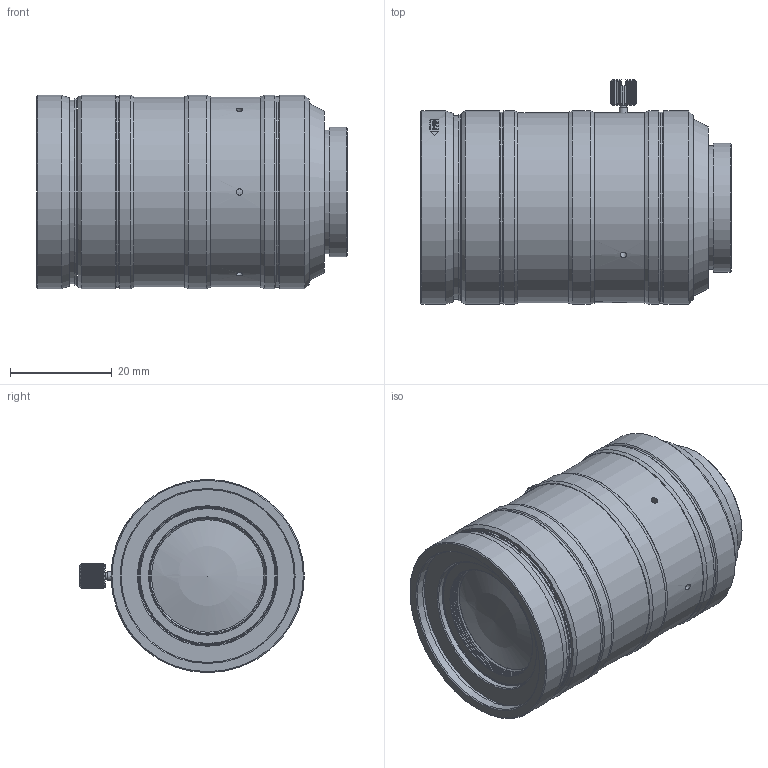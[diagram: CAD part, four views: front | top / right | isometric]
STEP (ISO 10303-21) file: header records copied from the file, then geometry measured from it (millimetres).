
FILE_DESCRIPTION(/* description */ (''),/* implementation_level */ '2;1');
FILE_NAME(/* name */ 'YT60042短.stp',/* time_stamp */ '2023-08-09T18:11:24+08:00',/* author */ (''),/* organization */ (''),/* preprocessor_version */ 'ST-DEVELOPER v16.7',/* originating_system */ 'SIEMENS PLM Software NX 12.0',/* authorisation */ '');
FILE_SCHEMA (('AUTOMOTIVE_DESIGN { 1 0 10303 214 3 1 1 1 }'));
Length unit declared in the file: millimetre
Products named in the file (1): jian4894EB53nne8
Bounding box: 60.95 x 44.15 x 38 mm (x, y, z)
Volume: 56140.5 mm3; surface area: 18902.5 mm2
Topology: 3 solids, 7 shells, 364 faces, 895 edges, 584 vertices
Faces by surface type: plane 195, cylinder 74, cone 62, extrusion 30, sphere 3
Full cylindrical faces by diameter (mm): 1.2 x2, 1.25 x4, 1.6 x2, 20.474 x2, 22.081 x1, 22.2 x2, 22.907 x1, 22.954 x1, 23.1 x2, 23.7 x2, 24.3 x1, 25.317 x1, 25.4 x1, 25.717 x1, 26.5 x1, 27 x1, 27.2 x2, 28.31 x1, 31.295 x3, 31.495 x1, 32.495 x3, 32.695 x1, 33.987 x1, 34.687 x1, 36.098 x1, 36.598 x1, 37.295 x1, 37.3 x1, 37.505 x1, 37.535 x1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
Entity records: 10888 total; most frequent: CARTESIAN_POINT 3009, DIRECTION 1511, ORIENTED_EDGE 1502, EDGE_CURVE 751, AXIS2_PLACEMENT_3D 589, VERTEX_POINT 553, EDGE_LOOP 534, ADVANCED_FACE 364
